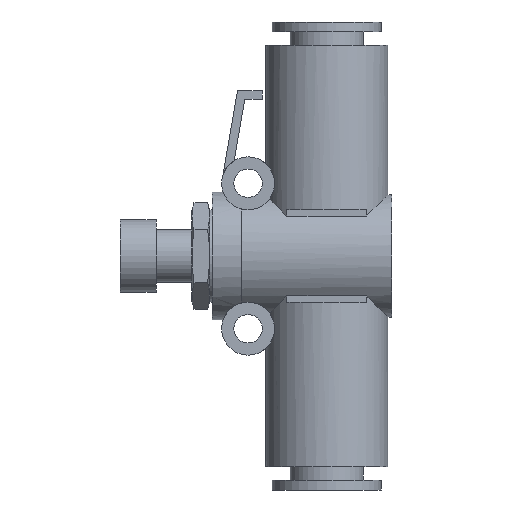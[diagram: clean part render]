
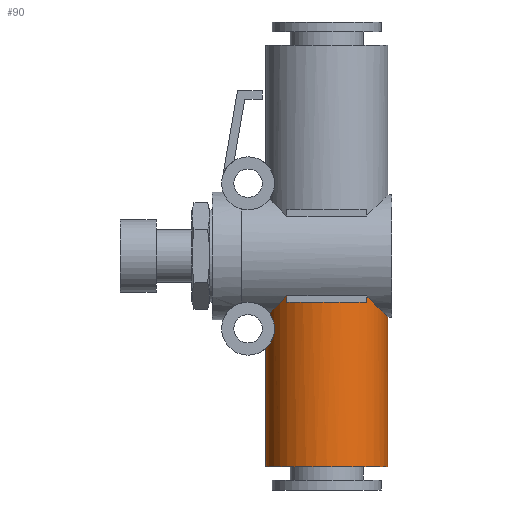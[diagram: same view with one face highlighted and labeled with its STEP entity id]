
A CAD part, left-side view. The second image highlights one B-rep face of the part: STEP entity #90.
In plain terms, the highlighted cylindrical face has radius 9.25 mm (diameter 18.5 mm), a partial arc.
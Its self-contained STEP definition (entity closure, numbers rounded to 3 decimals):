
#90 = ADVANCED_FACE( '', ( #185 ), #186, .T. );
#185 = FACE_OUTER_BOUND( '', #358, .T. );
#186 = CYLINDRICAL_SURFACE( '', #359, 9.25 );
#358 = EDGE_LOOP( '', ( #635, #636, #637, #638, #639, #640, #641, #642, #643 ) );
#359 = AXIS2_PLACEMENT_3D( '', #644, #645, #646 );
#635 = ORIENTED_EDGE( '', *, *, #1219, .F. );
#636 = ORIENTED_EDGE( '', *, *, #1220, .T. );
#637 = ORIENTED_EDGE( '', *, *, #1221, .F. );
#638 = ORIENTED_EDGE( '', *, *, #1202, .T. );
#639 = ORIENTED_EDGE( '', *, *, #1222, .T. );
#640 = ORIENTED_EDGE( '', *, *, #1223, .T. );
#641 = ORIENTED_EDGE( '', *, *, #1224, .T. );
#642 = ORIENTED_EDGE( '', *, *, #1200, .T. );
#643 = ORIENTED_EDGE( '', *, *, #1225, .T. );
#644 = CARTESIAN_POINT( '', ( 0., 0., 0. ) );
#645 = DIRECTION( '', ( 0., 0., -1. ) );
#646 = DIRECTION( '', ( 0., 1., 0. ) );
#1200 = EDGE_CURVE( '', #1465, #1463, #1466, .T. );
#1202 = EDGE_CURVE( '', #1469, #1467, #1470, .T. );
#1219 = EDGE_CURVE( '', #1499, #1500, #1501, .T. );
#1220 = EDGE_CURVE( '', #1499, #1502, #1503, .T. );
#1221 = EDGE_CURVE( '', #1469, #1502, #1504, .T. );
#1222 = EDGE_CURVE( '', #1467, #1505, #1506, .T. );
#1223 = EDGE_CURVE( '', #1505, #1507, #1508, .T. );
#1224 = EDGE_CURVE( '', #1507, #1465, #1509, .T. );
#1225 = EDGE_CURVE( '', #1463, #1500, #1510, .T. );
#1463 = VERTEX_POINT( '', #2003 );
#1465 = VERTEX_POINT( '', #2026 );
#1466 = ELLIPSE( '', #2027, 13.081, 9.25 );
#1467 = VERTEX_POINT( '', #2028 );
#1469 = VERTEX_POINT( '', #2031 );
#1470 = ELLIPSE( '', #2032, 13.081, 9.25 );
#1499 = VERTEX_POINT( '', #2204 );
#1500 = VERTEX_POINT( '', #2205 );
#1501 = LINE( '', #2206, #2207 );
#1502 = VERTEX_POINT( '', #2208 );
#1503 = CIRCLE( '', #2209, 9.25 );
#1504 = LINE( '', #2210, #2211 );
#1505 = VERTEX_POINT( '', #2212 );
#1506 = LINE( '', #2213, #2214 );
#1507 = VERTEX_POINT( '', #2215 );
#1508 = CIRCLE( '', #2216, 9.25 );
#1509 = LINE( '', #2217, #2218 );
#1510 = B_SPLINE_CURVE_WITH_KNOTS( '', 3, ( #2219, #2220, #2221, #2222, #2223, #2224, #2225, #2226, #2227, #2228, #2229, #2230, #2231, #2232, #2233, #2234, #2235, #2236, #2237, #2238, #2239, #2240, #2241, #2242, #2243, #2244, #2245, #2246, #2247, #2248, #2249, #2250, #2251, #2252, #2253, #2254, #2255, #2256, #2257, #2258, #2259, #2260, #2261, #2262, #2263, #2264, #2265, #2266, #2267, #2268, #2269, #2270, #2271, #2272, #2273, #2274, #2275, #2276, #2277 ), .UNSPECIFIED., .F., .F., ( 4, 2, 2, 2, 2, 2, 2, 2, 2, 2, 2, 2, 2, 2, 3, 2, 2, 2, 2, 2, 2, 2, 2, 2, 2, 2, 2, 2, 4 ), ( 16.004, 16.283, 17.485, 17.868, 18.251, 18.634, 19.017, 19.4, 19.784, 20.167, 20.55, 21.752, 22.953, 24.155, 25.356, 26.558, 27.76, 28.961, 30.163, 30.546, 30.929, 31.312, 31.696, 32.079, 32.462, 32.845, 33.228, 34.43, 34.708 ), .UNSPECIFIED. );
#2003 = CARTESIAN_POINT( '', ( -3.257, 8.658, -8.658 ) );
#2026 = CARTESIAN_POINT( '', ( -7., 6.047, -6.047 ) );
#2027 = AXIS2_PLACEMENT_3D( '', #2824, #2825, #2826 );
#2028 = CARTESIAN_POINT( '', ( -7., -6.047, -6.047 ) );
#2031 = CARTESIAN_POINT( '', ( 0., -9.25, -9.25 ) );
#2032 = AXIS2_PLACEMENT_3D( '', #2828, #2829, #2830 );
#2204 = CARTESIAN_POINT( '', ( 0., 9.25, -31.9 ) );
#2205 = CARTESIAN_POINT( '', ( 0., 9.25, -13.996 ) );
#2206 = CARTESIAN_POINT( '', ( 0., 9.25, -18.973 ) );
#2207 = VECTOR( '', #2854, 1. );
#2208 = CARTESIAN_POINT( '', ( 0., -9.25, -31.9 ) );
#2209 = AXIS2_PLACEMENT_3D( '', #2855, #2856, #2857 );
#2210 = CARTESIAN_POINT( '', ( 0., -9.25, -18.973 ) );
#2211 = VECTOR( '', #2858, 1. );
#2212 = CARTESIAN_POINT( '', ( -7., -6.047, -7. ) );
#2213 = CARTESIAN_POINT( '', ( -7., -6.047, 0. ) );
#2214 = VECTOR( '', #2859, 1. );
#2215 = CARTESIAN_POINT( '', ( -7., 6.047, -7. ) );
#2216 = AXIS2_PLACEMENT_3D( '', #2860, #2861, #2862 );
#2217 = CARTESIAN_POINT( '', ( -7., 6.047, 0. ) );
#2218 = VECTOR( '', #2863, 1. );
#2219 = CARTESIAN_POINT( '', ( -3.257, 8.658, -8.658 ) );
#2220 = CARTESIAN_POINT( '', ( -3.336, 8.628, -8.698 ) );
#2221 = CARTESIAN_POINT( '', ( -3.412, 8.598, -8.742 ) );
#2222 = CARTESIAN_POINT( '', ( -3.808, 8.437, -8.985 ) );
#2223 = CARTESIAN_POINT( '', ( -4.092, 8.3, -9.227 ) );
#2224 = CARTESIAN_POINT( '', ( -4.394, 8.14, -9.63 ) );
#2225 = CARTESIAN_POINT( '', ( -4.463, 8.102, -9.738 ) );
#2226 = CARTESIAN_POINT( '', ( -4.586, 8.034, -9.968 ) );
#2227 = CARTESIAN_POINT( '', ( -4.639, 8.003, -10.091 ) );
#2228 = CARTESIAN_POINT( '', ( -4.726, 7.952, -10.345 ) );
#2229 = CARTESIAN_POINT( '', ( -4.759, 7.932, -10.476 ) );
#2230 = CARTESIAN_POINT( '', ( -4.801, 7.906, -10.74 ) );
#2231 = CARTESIAN_POINT( '', ( -4.812, 7.9, -10.872 ) );
#2232 = CARTESIAN_POINT( '', ( -4.812, 7.9, -11.128 ) );
#2233 = CARTESIAN_POINT( '', ( -4.801, 7.906, -11.26 ) );
#2234 = CARTESIAN_POINT( '', ( -4.759, 7.932, -11.524 ) );
#2235 = CARTESIAN_POINT( '', ( -4.726, 7.952, -11.655 ) );
#2236 = CARTESIAN_POINT( '', ( -4.639, 8.003, -11.909 ) );
#2237 = CARTESIAN_POINT( '', ( -4.586, 8.034, -12.032 ) );
#2238 = CARTESIAN_POINT( '', ( -4.463, 8.102, -12.262 ) );
#2239 = CARTESIAN_POINT( '', ( -4.394, 8.14, -12.37 ) );
#2240 = CARTESIAN_POINT( '', ( -4.092, 8.3, -12.773 ) );
#2241 = CARTESIAN_POINT( '', ( -3.808, 8.437, -13.015 ) );
#2242 = CARTESIAN_POINT( '', ( -3.165, 8.699, -13.41 ) );
#2243 = CARTESIAN_POINT( '', ( -2.805, 8.823, -13.561 ) );
#2244 = CARTESIAN_POINT( '', ( -2.04, 9.031, -13.792 ) );
#2245 = CARTESIAN_POINT( '', ( -1.635, 9.114, -13.871 ) );
#2246 = CARTESIAN_POINT( '', ( -0.815, 9.223, -13.973 ) );
#2247 = CARTESIAN_POINT( '', ( -0.401, 9.25, -13.996 ) );
#2248 = CARTESIAN_POINT( '', ( 0., 9.25, -13.996 ) );
#2249 = CARTESIAN_POINT( '', ( 0.401, 9.25, -13.996 ) );
#2250 = CARTESIAN_POINT( '', ( 0.815, 9.223, -13.973 ) );
#2251 = CARTESIAN_POINT( '', ( 1.635, 9.114, -13.871 ) );
#2252 = CARTESIAN_POINT( '', ( 2.04, 9.031, -13.792 ) );
#2253 = CARTESIAN_POINT( '', ( 2.805, 8.823, -13.561 ) );
#2254 = CARTESIAN_POINT( '', ( 3.165, 8.699, -13.41 ) );
#2255 = CARTESIAN_POINT( '', ( 3.808, 8.437, -13.015 ) );
#2256 = CARTESIAN_POINT( '', ( 4.092, 8.3, -12.773 ) );
#2257 = CARTESIAN_POINT( '', ( 4.394, 8.14, -12.37 ) );
#2258 = CARTESIAN_POINT( '', ( 4.463, 8.102, -12.262 ) );
#2259 = CARTESIAN_POINT( '', ( 4.586, 8.034, -12.032 ) );
#2260 = CARTESIAN_POINT( '', ( 4.639, 8.003, -11.909 ) );
#2261 = CARTESIAN_POINT( '', ( 4.726, 7.952, -11.655 ) );
#2262 = CARTESIAN_POINT( '', ( 4.759, 7.932, -11.524 ) );
#2263 = CARTESIAN_POINT( '', ( 4.801, 7.906, -11.26 ) );
#2264 = CARTESIAN_POINT( '', ( 4.812, 7.9, -11.128 ) );
#2265 = CARTESIAN_POINT( '', ( 4.812, 7.9, -10.872 ) );
#2266 = CARTESIAN_POINT( '', ( 4.801, 7.906, -10.74 ) );
#2267 = CARTESIAN_POINT( '', ( 4.759, 7.932, -10.476 ) );
#2268 = CARTESIAN_POINT( '', ( 4.726, 7.952, -10.345 ) );
#2269 = CARTESIAN_POINT( '', ( 4.639, 8.003, -10.091 ) );
#2270 = CARTESIAN_POINT( '', ( 4.586, 8.034, -9.968 ) );
#2271 = CARTESIAN_POINT( '', ( 4.463, 8.102, -9.738 ) );
#2272 = CARTESIAN_POINT( '', ( 4.394, 8.14, -9.63 ) );
#2273 = CARTESIAN_POINT( '', ( 4.092, 8.3, -9.227 ) );
#2274 = CARTESIAN_POINT( '', ( 3.808, 8.437, -8.985 ) );
#2275 = CARTESIAN_POINT( '', ( 3.412, 8.598, -8.742 ) );
#2276 = CARTESIAN_POINT( '', ( 3.336, 8.628, -8.698 ) );
#2277 = CARTESIAN_POINT( '', ( 3.257, 8.658, -8.658 ) );
#2824 = CARTESIAN_POINT( '', ( 0., 0., 0. ) );
#2825 = DIRECTION( '', ( 0., -0.707, -0.707 ) );
#2826 = DIRECTION( '', ( 0., -0.707, 0.707 ) );
#2828 = CARTESIAN_POINT( '', ( 0., 0., 0. ) );
#2829 = DIRECTION( '', ( 0., 0.707, -0.707 ) );
#2830 = DIRECTION( '', ( 0., 0.707, 0.707 ) );
#2854 = DIRECTION( '', ( 0., 0., 1. ) );
#2855 = CARTESIAN_POINT( '', ( 0., 0., -31.9 ) );
#2856 = DIRECTION( '', ( 0., 0., 1. ) );
#2857 = DIRECTION( '', ( 0., 1., 0. ) );
#2858 = DIRECTION( '', ( 0., 0., -1. ) );
#2859 = DIRECTION( '', ( 0., 0., -1. ) );
#2860 = CARTESIAN_POINT( '', ( 0., 0., -7. ) );
#2861 = DIRECTION( '', ( 0., 0., -1. ) );
#2862 = DIRECTION( '', ( 0., 1., 0. ) );
#2863 = DIRECTION( '', ( 0., 0., 1. ) );
